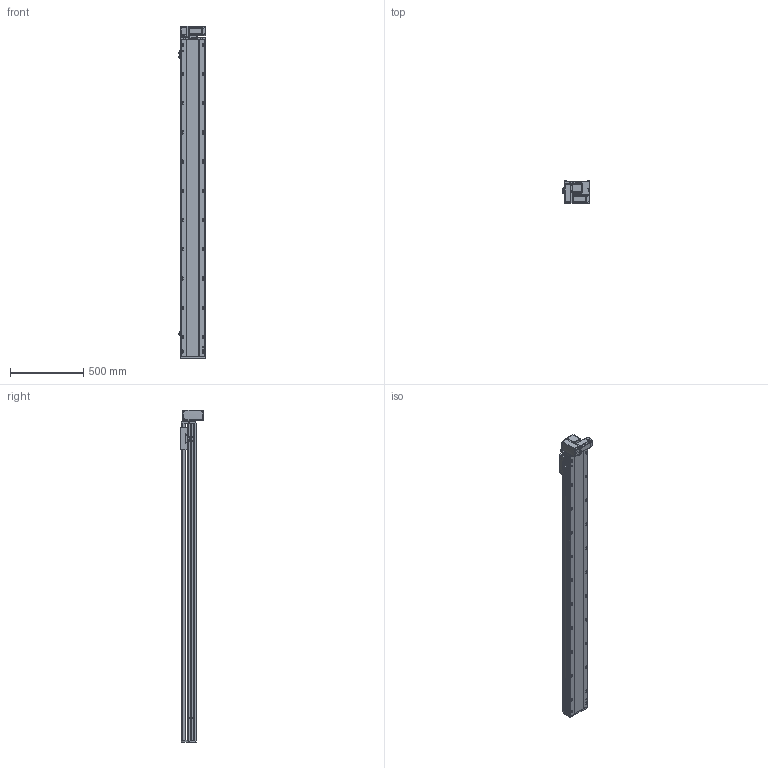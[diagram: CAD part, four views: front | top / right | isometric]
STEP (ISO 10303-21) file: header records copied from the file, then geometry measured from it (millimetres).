
FILE_DESCRIPTION (( 'STEP AP214' ), '1' );
FILE_NAME ('RTB17S-XX-1900-LM-M40-C4.STEP', '2025-12-11T06:31:50', ( '' ), ( '' ), 'SwSTEP 2.0', 'SolidWorks 2018', '' );
FILE_SCHEMA (( 'AUTOMOTIVE_DESIGN' ));
Length unit declared in the file: millimetre
Products named in the file (14): RTH13-BL-012覜茼え俋离^RTB17S-XX-XX-LM-M40-C4; RTB17-R-011菁釱^RTB17S-XX-XX-LM-M40-C4; RTB17S-LM-々湍釱蚾饜-400W^RTB17S-XX-XX-LM-M40-C4; RTB17S-L-007奻裔^RTB17S-XX-XX-LM-M40-C4; OMRON EE-SX672 传感器^RTB17S-XX-XX-LM-M40-C4; RTB14-L-017P^RTB17S-LM-々湍釱蚾饜-400W_RTB17S-XX-XX-LM-M40-C4; RTB14-L-018P^RTB17S-LM-々湍釱蚾饜-400W_RTB17S-XX-XX-LM-M40-C4; 400W侜督萇儂^RTB17S-XX-XX-LM-M40-C4; RTB17S-XX-1900-LM-M40-C4; RTB17S-L-001耜醱啣^RTB17S-XX-XX-LM-M40-C4; RTB14-L-008-M20--萇儂啣^RTB17S-LM-々湍釱蚾饜-400W_RTB17S-XX-XX-LM-M40-C4; RTB14-L-005P--轴承塑胶压盖^RTB17S-LM-皮带座装配-400W_RTB17S-XX-XX-LM-M40-C4; RMP17S-L-014-T20--々湍釱^RTB17S-LM-々湍釱蚾饜-400W_RTB17S-XX-XX-LM-M40-C4; RTB17S-L-004佪裝蹟譫蟀諉釱^RTB17S-XX-XX-LM-M40-C4
Assembly tree (16 placements, depth 3):
  RTB17S-XX-1900-LM-M40-C4
    RTB17-R-011菁釱^RTB17S-XX-XX-LM-M40-C4
    RTB17S-L-007奻裔^RTB17S-XX-XX-LM-M40-C4
    OMRON EE-SX672 传感器^RTB17S-XX-XX-LM-M40-C4  x3
    RTH13-BL-012覜茼え俋离^RTB17S-XX-XX-LM-M40-C4
    RTB17S-L-001耜醱啣^RTB17S-XX-XX-LM-M40-C4
    400W侜督萇儂^RTB17S-XX-XX-LM-M40-C4
    RTB17S-L-004佪裝蹟譫蟀諉釱^RTB17S-XX-XX-LM-M40-C4
    RTB17S-LM-々湍釱蚾饜-400W^RTB17S-XX-XX-LM-M40-C4
      RMP17S-L-014-T20--々湍釱^RTB17S-LM-々湍釱蚾饜-400W_RTB17S-XX-XX-LM-M40-C4
      RTB14-L-005P--轴承塑胶压盖^RTB17S-LM-皮带座装配-400W_RTB17S-XX-XX-LM-M40-C4
      RTB14-L-008-M20--萇儂啣^RTB17S-LM-々湍釱蚾饜-400W_RTB17S-XX-XX-LM-M40-C4
      RTB14-L-017P^RTB17S-LM-々湍釱蚾饜-400W_RTB17S-XX-XX-LM-M40-C4  x2
      RTB14-L-018P^RTB17S-LM-々湍釱蚾饜-400W_RTB17S-XX-XX-LM-M40-C4
Bounding box: 186 x 156.5 x 2272.5 mm (x, y, z)
Volume: 19711159.2 mm3; surface area: 2299326.4 mm2
Topology: 15 solids, 15 shells, 2285 faces, 6357 edges, 4149 vertices
Faces by surface type: plane 1078, cylinder 759, bspline 301, cone 139, torus 8
Entity records: 66473 total; most frequent: CARTESIAN_POINT 18762, ORIENTED_EDGE 9558, DIRECTION 8846, EDGE_CURVE 4779, VERTEX_POINT 3137, AXIS2_PLACEMENT_3D 3067, LINE 2712, VECTOR 2712
